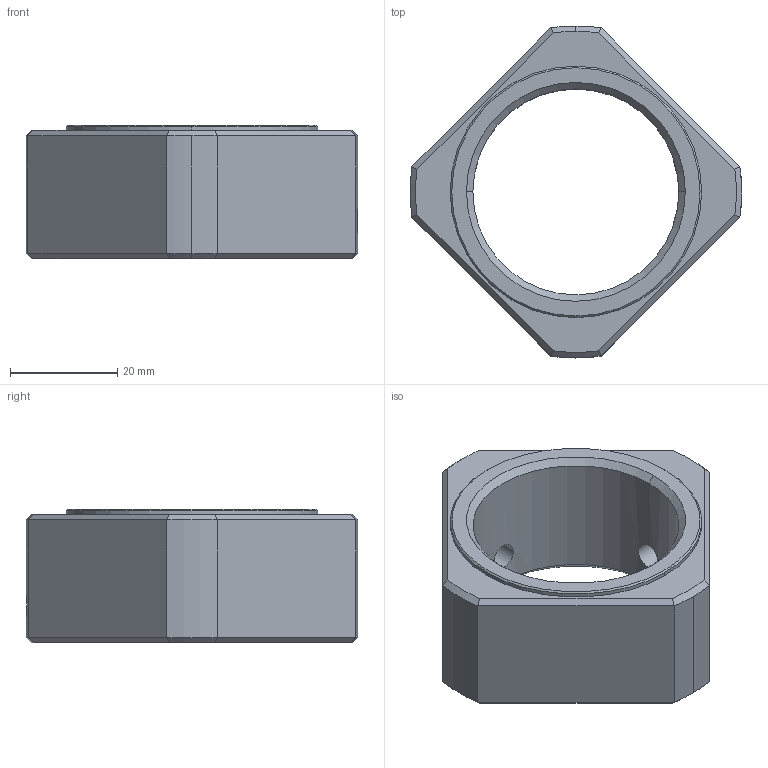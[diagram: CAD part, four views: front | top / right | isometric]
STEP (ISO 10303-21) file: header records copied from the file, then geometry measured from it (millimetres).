
FILE_DESCRIPTION (( 'STEP AP203' ), '1' );
FILE_NAME ('40玛㏕脸碪(家舱篈).STEP', '2013-01-22T02:53:18', ( '' ), ( '' ), 'SwSTEP 2.0', 'SolidWorks 2012', '' );
FILE_SCHEMA (( 'CONFIG_CONTROL_DESIGN' ));
Length unit declared in the file: millimetre
Products named in the file (1): 40鎖固螺帽(模型組態)
Bounding box: 61.96 x 62 x 25 mm (x, y, z)
Volume: 29865.3 mm3; surface area: 9991 mm2
Topology: 1 solids, 1 shells, 48 faces, 109 edges, 63 vertices
Faces by surface type: cone 16, plane 15, cylinder 13, bspline 4
Entity records: 1797 total; most frequent: CARTESIAN_POINT 689, ORIENTED_EDGE 218, DIRECTION 202, EDGE_CURVE 109, AXIS2_PLACEMENT_3D 80, VERTEX_POINT 63, EDGE_LOOP 54, ADVANCED_FACE 48
